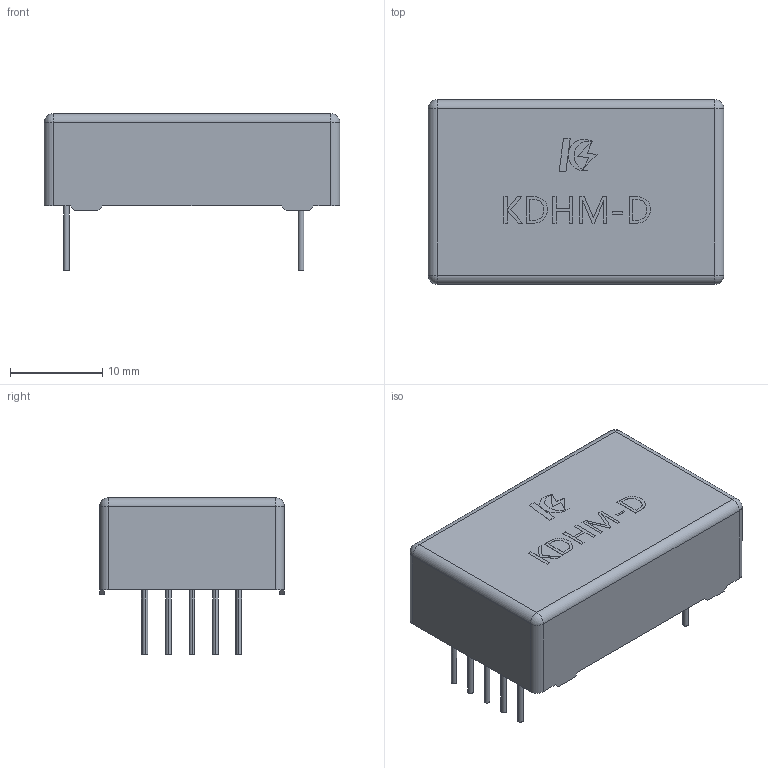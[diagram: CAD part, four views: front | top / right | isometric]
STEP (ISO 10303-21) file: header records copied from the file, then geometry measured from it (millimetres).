
FILE_DESCRIPTION (( 'STEP AP214' ), '1' );
FILE_NAME ('KDHM-D.STEP', '2026-08-12T01:30:46', ( '' ), ( '' ), 'SwSTEP 2.0', 'SolidWorks 2024', '' );
FILE_SCHEMA (( 'AUTOMOTIVE_DESIGN' ));
Length unit declared in the file: millimetre
Products named in the file (1): KDHM-D
Bounding box: 32 x 20 x 17.01 mm (x, y, z)
Volume: 6386.8 mm3; surface area: 2363.1 mm2
Topology: 1 solids, 1 shells, 153 faces, 391 edges, 254 vertices
Faces by surface type: plane 107, cylinder 26, bspline 16, sphere 4
Entity records: 6955 total; most frequent: CARTESIAN_POINT 1619, ORIENTED_EDGE 774, DIRECTION 683, EDGE_CURVE 387, LINE 303, VECTOR 303, VERTEX_POINT 254, AXIS2_PLACEMENT_3D 190
